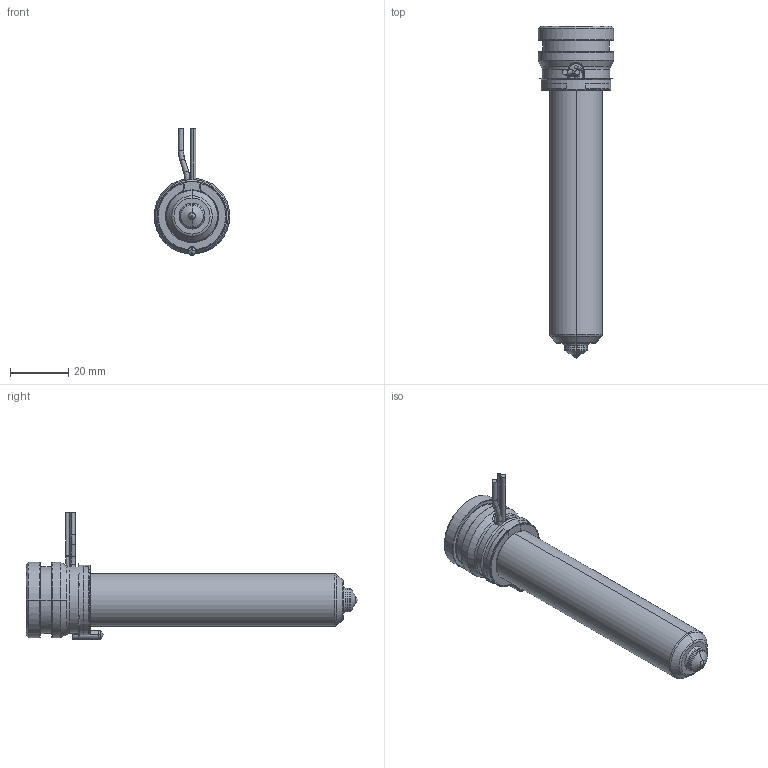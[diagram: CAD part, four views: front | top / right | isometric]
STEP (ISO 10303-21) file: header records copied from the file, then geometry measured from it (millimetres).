
FILE_DESCRIPTION((''),'2;1');
FILE_NAME('MPN-08-24-TS8-096-A','2026-02-05T11:52:49',('UPTIO'),('Thermoplay S.p.A.'),'CREO PARAMETRIC BY PTC INC, 2023494','CREO PARAMETRIC BY PTC INC, 2023494','');
FILE_SCHEMA(('CONFIG_CONTROL_DESIGN','SHAPE_APPEARANCE_LAYERS_GROUPS'));
Length unit declared in the file: millimetre
Products named in the file (1): MPN-08-24-TS8-096-A
Bounding box: 26 x 114 x 43.5 mm (x, y, z)
Volume: 22721 mm3; surface area: 28491.3 mm2
Topology: 2 solids, 5 shells, 548 faces, 1437 edges, 892 vertices
Faces by surface type: cylinder 178, plane 146, bspline 82, torus 64, cone 60, sphere 12, extrusion 6
Entity records: 29165 total; most frequent: CARTESIAN_POINT 12992, ORIENTED_EDGE 2854, DIRECTION 2539, EDGE_CURVE 1427, AXIS2_PLACEMENT_3D 992, VERTEX_POINT 892, EDGE_LOOP 575, VECTOR 555
